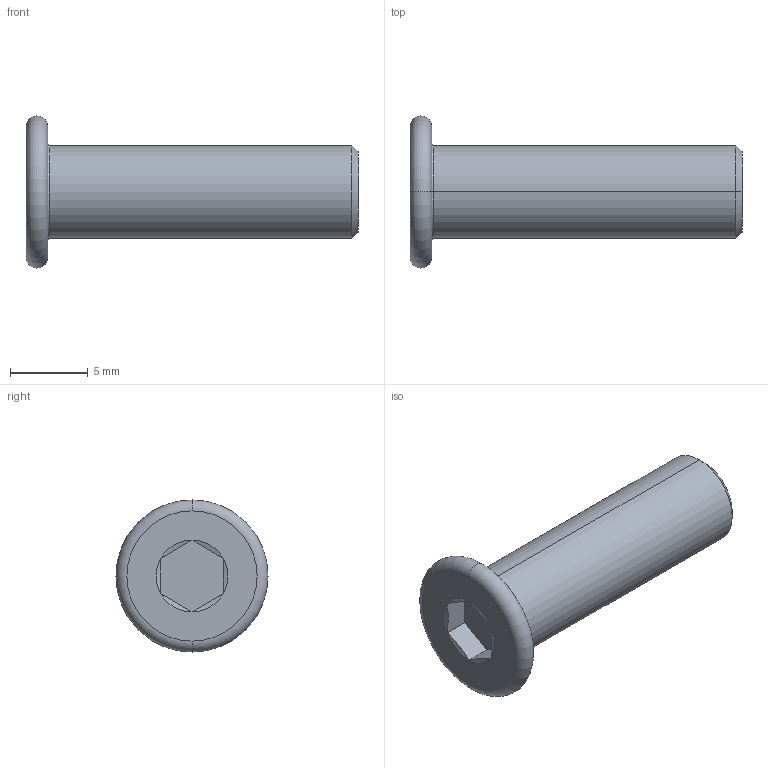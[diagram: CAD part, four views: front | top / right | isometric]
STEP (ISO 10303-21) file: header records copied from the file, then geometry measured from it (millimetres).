
FILE_DESCRIPTION (( 'STEP AP203' ), '1' );
FILE_NAME ('LGD-304M-M6x20.STEP', '2026-08-13T12:46:19', ( '' ), ( '' ), 'SwSTEP 2.0', 'SolidWorks 2020', '' );
FILE_SCHEMA (( 'CONFIG_CONTROL_DESIGN' ));
Length unit declared in the file: millimetre
Products named in the file (1): LGD-304M-M6x20
Bounding box: 21.4 x 9.8 x 9.8 mm (x, y, z)
Volume: 641.1 mm3; surface area: 568 mm2
Topology: 1 solids, 1 shells, 24 faces, 44 edges, 24 vertices
Faces by surface type: plane 10, cone 8, torus 4, cylinder 2
Entity records: 673 total; most frequent: CARTESIAN_POINT 119, DIRECTION 110, ORIENTED_EDGE 88, AXIS2_PLACEMENT_3D 47, EDGE_CURVE 44, EDGE_LOOP 26, ADVANCED_FACE 24, FACE_OUTER_BOUND 24
